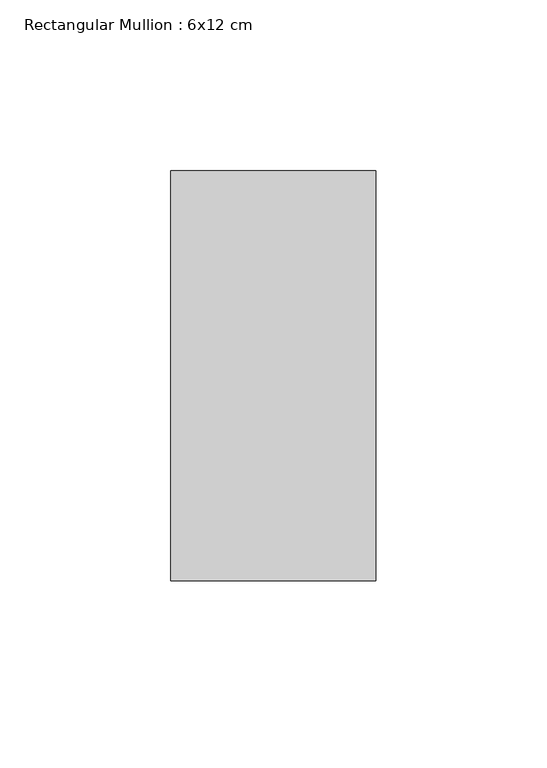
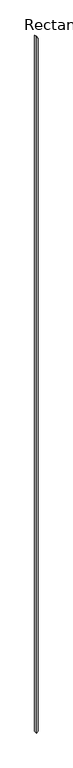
"""IFC4 building model written with IfcOpenShell, lengths in millimetres: member geometry, Rectangular Mullion : 6x12 cm."""

import ifcopenshell
import ifcopenshell.guid

model = None  # the IFC model being written
_history = None  # IfcOwnerHistory: only IFC2X3 demands one
_inside = {}  # id of a spatial element -> (the spatial element, [elements in it])
_under = {}  # id of a project, library or spatial element -> (it, [spatial elements below it])
_declared = {}  # id of a project -> (the project, [libraries it declares])
_typed = {}  # id of a type object -> (the type object, [elements of that type])
_made_of = {}  # id of a material, layer set ... -> (it, [elements and type objects made of it])


def new_model(schema):
    """Start an empty IFC model of exactly this schema.

    Asked for "IFC4X3", IfcOpenShell would pick the latest addendum, in which some entities
    have other attributes; the version numbers below select the first issue.
    IFC2X3 requires an IfcOwnerHistory on every rooted entity: one is made here for all.
    """
    global model, _history
    if schema == "IFC4X3":
        model = ifcopenshell.file(schema_version=(4, 3, 0, 0))
    else:
        model = ifcopenshell.file(schema=schema)
    _inside.clear()
    _under.clear()
    _declared.clear()
    _typed.clear()
    _made_of.clear()
    _history = None
    if model.schema == "IFC2X3":
        org = make("IfcOrganization", Name="unknown")
        user = make(
            "IfcPersonAndOrganization",
            ThePerson=make("IfcPerson", FamilyName="unknown"),
            TheOrganization=org,
        )
        app = make(
            "IfcApplication",
            ApplicationDeveloper=org,
            Version="unknown",
            ApplicationFullName="unknown",
            ApplicationIdentifier="unknown",
        )
        _history = make(
            "IfcOwnerHistory",
            OwningUser=user,
            OwningApplication=app,
            ChangeAction="ADDED",
            CreationDate=0,
        )
    return model


def make(cls, **values):
    """One entity of the class cls with the attributes given. An attribute that is None is left unset."""
    return model.create_entity(
        cls, **{name: value for name, value in values.items() if value is not None}
    )


def rooted(cls, **values):
    """An entity with a GlobalId (a new one), such as an element, a storey or a relation."""
    return make(cls, GlobalId=ifcopenshell.guid.new(), OwnerHistory=_history, **values)


def si_unit(unit_type, name, prefix=None):
    """IfcSIUnit, for example si_unit("LENGTHUNIT", "METRE", prefix="MILLI")."""
    return make("IfcSIUnit", UnitType=unit_type, Prefix=prefix, Name=name)


def assignment(units):
    """IfcUnitAssignment: the units of a project."""
    return None if units is None else make("IfcUnitAssignment", Units=units)


def point(xyz):
    """IfcCartesianPoint."""
    return None if xyz is None else make("IfcCartesianPoint", Coordinates=xyz)


def direction(xyz):
    """IfcDirection."""
    return None if xyz is None else make("IfcDirection", DirectionRatios=xyz)


def frame(location, z_axis=None, x_axis=None):
    """IfcAxis2Placement3D, a coordinate frame: its origin and axes. An axis left out is left unset."""
    return make(
        "IfcAxis2Placement3D",
        Location=point(location),
        Axis=direction(z_axis),
        RefDirection=direction(x_axis),
    )


def origin():
    """The frame at (0, 0, 0) with its axes left unset."""
    return frame((0.0, 0.0, 0.0))


def place(relative_to, where):
    """IfcLocalPlacement: puts the frame where relative to a parent placement (None: the world)."""
    return make(
        "IfcLocalPlacement", PlacementRelTo=relative_to, RelativePlacement=where
    )


def context(
    kind, dimensions, precision=None, world=None, true_north=None, identifier=None
):
    """IfcGeometricRepresentationContext, for example the 3D "Model" context."""
    return make(
        "IfcGeometricRepresentationContext",
        ContextIdentifier=identifier,
        ContextType=kind,
        CoordinateSpaceDimension=dimensions,
        Precision=precision,
        WorldCoordinateSystem=world,
        TrueNorth=true_north,
    )


def project(units=None, contexts=None):
    """IfcProject with its units and contexts."""
    return rooted(
        "IfcProject",
        Name="project",
        RepresentationContexts=contexts,
        UnitsInContext=assignment(units),
    )


def spatial(cls, under=None, at=None, **own):
    """A site, building, storey or space (cls), placed at a placement, below another one or the project."""
    s = rooted(cls, ObjectPlacement=at, **own)
    if under is not None:
        _under.setdefault(under.id(), (under, []))[1].append(s)
    return s


def polyline(points):
    """IfcPolyline through the points."""
    return make("IfcPolyline", Points=[point(p) for p in points])


def outline(outer, holes=None, kind="AREA"):
    """IfcArbitraryClosedProfileDef: a profile drawn as a closed curve; with holes, ...WithVoids."""
    if holes is None:
        return make("IfcArbitraryClosedProfileDef", ProfileType=kind, OuterCurve=outer)
    return make(
        "IfcArbitraryProfileDefWithVoids",
        ProfileType=kind,
        OuterCurve=outer,
        InnerCurves=holes,
    )


def extrude(swept, where, along, depth):
    """IfcExtrudedAreaSolid: the profile swept, set in the frame where, extruded along a direction by depth."""
    return make(
        "IfcExtrudedAreaSolid",
        SweptArea=swept,
        Position=where,
        ExtrudedDirection=direction(along),
        Depth=depth,
    )


def shape(context_of_items, identifier, shape_type, items):
    """IfcShapeRepresentation: the items that make up one representation, for example the "Body"."""
    return make(
        "IfcShapeRepresentation",
        ContextOfItems=context_of_items,
        RepresentationIdentifier=identifier,
        RepresentationType=shape_type,
        Items=items,
    )


def source(mapping_origin, context_of_items, identifier, shape_type, items):
    """IfcRepresentationMap: a shape defined once, which mapped items show again and again."""
    return make(
        "IfcRepresentationMap",
        MappingOrigin=mapping_origin,
        MappedRepresentation=shape(context_of_items, identifier, shape_type, items),
    )


def transform(
    local_origin,
    x_axis=None,
    y_axis=None,
    z_axis=None,
    scale=None,
    scale2=None,
    scale3=None,
    uniform=True,
):
    """IfcCartesianTransformationOperator3D, or its non-uniform kind. x_axis, y_axis, z_axis: its Axis1, 2, 3."""
    if uniform:
        return make(
            "IfcCartesianTransformationOperator3D",
            Axis1=direction(x_axis),
            Axis2=direction(y_axis),
            LocalOrigin=point(local_origin),
            Scale=scale,
            Axis3=direction(z_axis),
        )
    return make(
        "IfcCartesianTransformationOperator3DnonUniform",
        Axis1=direction(x_axis),
        Axis2=direction(y_axis),
        LocalOrigin=point(local_origin),
        Scale=scale,
        Axis3=direction(z_axis),
        Scale2=scale2,
        Scale3=scale3,
    )


def mapped(mapping_source, mapping_target):
    """IfcMappedItem: shows the shape of a source again, moved by a transform."""
    return make(
        "IfcMappedItem", MappingSource=mapping_source, MappingTarget=mapping_target
    )


def made_of(thing, what):
    """Note that an element or type object is made of a material, layer set ...; save() writes the relation."""
    if what is not None:
        _made_of.setdefault(what.id(), (what, []))[1].append(thing)
    return thing


def element(
    cls,
    number,
    at=None,
    inside=None,
    cuts=None,
    type_object=None,
    material=None,
    context=None,
    identifier="Body",
    shape_type=None,
    held_by="IfcProductDefinitionShape",
    body=None,
    shapes=None,
    **own,
):
    """One element of the class cls, such as IfcWall. Its Tag is "e" and its number.

    at: its placement. inside: the storey or other place that contains it. cuts: it is an
    opening in that element (IfcRelVoidsElement). A single representation is given by context,
    identifier, shape_type and body (its items); several are given by shapes. held_by: the class
    of the entity that holds the representations. save() writes the other relations.
    """
    e = rooted(cls, Tag="e%d" % number, ObjectPlacement=at, **own)
    if body is not None:
        shapes = [shape(context, identifier, shape_type, body)]
    if shapes is not None:
        e.Representation = make(held_by, Representations=shapes)
    if inside is not None:
        _inside.setdefault(inside.id(), (inside, []))[1].append(e)
    if cuts is not None:
        rooted(
            "IfcRelVoidsElement", RelatingBuildingElement=cuts, RelatedOpeningElement=e
        )
    if type_object is not None:
        _typed.setdefault(type_object.id(), (type_object, []))[1].append(e)
    return made_of(e, material)


def aggregate(whole, parts):
    """IfcRelAggregates: a whole, such as a stair, and the parts it consists of."""
    return rooted("IfcRelAggregates", RelatingObject=whole, RelatedObjects=parts)


def save(model, path):
    """Write the relations noted so far, then the file.

    IfcRelAggregates (storeys below a building ...), IfcRelContainedInSpatialStructure (elements
    in a storey), IfcRelDefinesByType, IfcRelAssociatesMaterial and IfcRelDeclares: one each for
    every whole, place, type object, material and project.
    """
    for whole, parts in _under.values():
        aggregate(whole, parts)
    for where, things in _inside.values():
        rooted(
            "IfcRelContainedInSpatialStructure",
            RelatedElements=things,
            RelatingStructure=where,
        )
    for kind, things in _typed.values():
        rooted("IfcRelDefinesByType", RelatedObjects=things, RelatingType=kind)
    for what, things in _made_of.values():
        rooted("IfcRelAssociatesMaterial", RelatedObjects=things, RelatingMaterial=what)
    for by, libraries in _declared.values():
        rooted("IfcRelDeclares", RelatingContext=by, RelatedDefinitions=libraries)
    model.write(path)


def rectangular_mullion_6x12_cm_5dd8ac2f(model_context):
    return source(origin(), model_context, "Body", "SweptSolid", [
        extrude(outline(polyline([(-104.1141863, 30.0), (-53.2294579, -30.0), (-27545.6362431, -30.0), (-27498.5207537, 30.0), (-104.1141863, 30.0)])), frame((0.0, 85.0, 0.0), z_axis=(0.0, 1.0, 0.0), x_axis=(0.0, 0.0, 1.0)), (0.0, 0.0, 1.0), 120.0),
    ])


if __name__ == "__main__":
    model = new_model("IFC4")
    model_context = context("Model", 3, world=origin())
    ifc_project = project(units=[si_unit("LENGTHUNIT", "METRE", prefix="MILLI")], contexts=[model_context])
    site = spatial("IfcSite", under=ifc_project)
    building = spatial("IfcBuilding", under=site)
    placement = place(None, origin())
    rectangular_mullion_6x12_cm_shape = rectangular_mullion_6x12_cm_5dd8ac2f(model_context)
    element("IfcMember", 1, ObjectType="Rectangular Mullion : 6x12 cm", at=placement, inside=building, context=model_context, shape_type="MappedRepresentation", body=[
        mapped(rectangular_mullion_6x12_cm_shape, transform((0.0, 0.0, 0.0), x_axis=(1.0, 0.0, 0.0), y_axis=(0.0, 1.0, 0.0), z_axis=(0.0, 0.0, 1.0))),
    ])
    save(model, "model.ifc")
